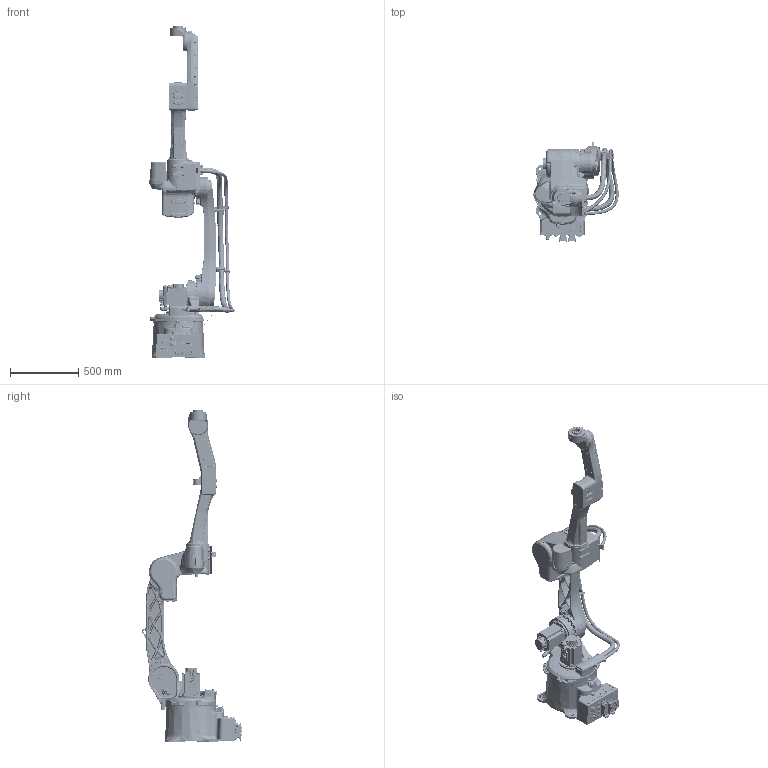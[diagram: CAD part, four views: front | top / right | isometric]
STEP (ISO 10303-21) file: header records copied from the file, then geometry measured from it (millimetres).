
FILE_DESCRIPTION(('CATIA V5 STEP Exchange','CAx-IF Rec.Pracs.--- Composite Materials ---3.4---2017-06-13'),'2;1');
FILE_NAME('D:\モデリング\☆☆☆STEP\BA\BA013L-AC001_220131\RARAS_220606\軽量化\Part\step\BA013L-AC01.stp','2022-06-07T03:33:08+00:00',('none'),('none'),'CATIA Version 5-6 Release 2020 SP4 HF11','CATIA V5 STEP AP203 v2','none');
FILE_SCHEMA(('CONFIG_CONTROL_DESIGN'));
Products named in the file (1): BA013L-AC01
Assembly tree (7 placements, depth 2):
  BA013L-AC01
    #57
    #62067
    #125489
    #193368
    #239890
    #309779
    #325398
Bounding box: 626.88 x 733.37 x 2440 mm (x, y, z)
Volume: 96565540.3 mm3; surface area: 4744987.5 mm2
Topology: 21 solids, 21 shells, 7166 faces, 18129 edges, 11157 vertices
Faces by surface type: plane 2289, cylinder 2078, bspline 1623, cone 562, torus 342, sphere 116, extrusion 83, revolution 73
Entity records: 327517 total; most frequent: CARTESIAN_POINT 180612, ORIENTED_EDGE 35478, DIRECTION 19952, EDGE_CURVE 17739, VERTEX_POINT 11157, AXIS2_PLACEMENT_3D 9195, EDGE_LOOP 7867, ADVANCED_FACE 7166
